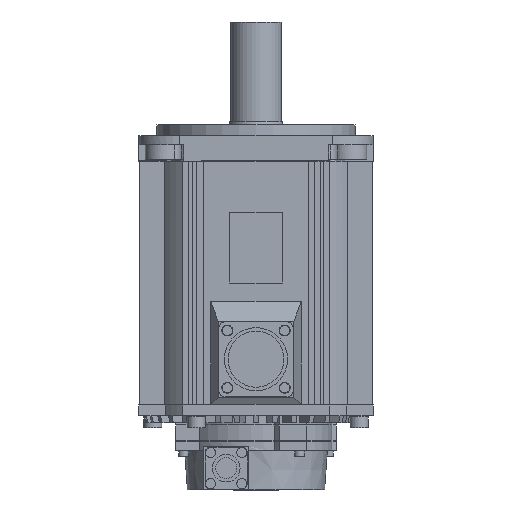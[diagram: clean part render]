
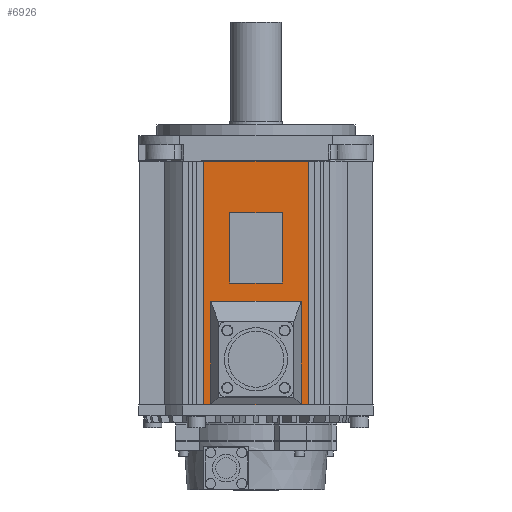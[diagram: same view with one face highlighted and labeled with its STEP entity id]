
A CAD part, front view. The second image highlights one B-rep face of the part: STEP entity #6926.
In plain terms, the highlighted planar face has unit normal (0, -1, 0).
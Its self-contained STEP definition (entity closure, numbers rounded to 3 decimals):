
#6894 = EDGE_CURVE ( 'NONE', #6895, #6896, #22342, .T. ) ;
#6895 = VERTEX_POINT ( 'NONE', #22338 ) ;
#6896 = VERTEX_POINT ( 'NONE', #22337 ) ;
#6897 = ORIENTED_EDGE ( 'NONE', *, *, #6898, .F. ) ;
#6898 = EDGE_CURVE ( 'NONE', #6899, #6895, #22336, .T. ) ;
#6899 = VERTEX_POINT ( 'NONE', #22395 ) ;
#6900 = ORIENTED_EDGE ( 'NONE', *, *, #6901, .F. ) ;
#6901 = EDGE_CURVE ( 'NONE', #6902, #6899, #22394, .T. ) ;
#6902 = VERTEX_POINT ( 'NONE', #22390 ) ;
#6903 = ORIENTED_EDGE ( 'NONE', *, *, #6904, .F. ) ;
#6904 = EDGE_CURVE ( 'NONE', #6896, #6902, #22389, .T. ) ;
#6907 = ORIENTED_EDGE ( 'NONE', *, *, #6908, .F. ) ;
#6908 = EDGE_CURVE ( 'NONE', #6931, #6937, #22378, .T. ) ;
#6909 = EDGE_LOOP ( 'NONE', ( #6910, #6915, #6919, #6922 ) ) ;
#6910 = ORIENTED_EDGE ( 'NONE', *, *, #6912, .F. ) ;
#6912 = EDGE_CURVE ( 'NONE', #6913, #6914, #22374, .T. ) ;
#6913 = VERTEX_POINT ( 'NONE', #22370 ) ;
#6914 = VERTEX_POINT ( 'NONE', #22369 ) ;
#6915 = ORIENTED_EDGE ( 'NONE', *, *, #6916, .T. ) ;
#6916 = EDGE_CURVE ( 'NONE', #6913, #6917, #22368, .T. ) ;
#6917 = VERTEX_POINT ( 'NONE', #22431 ) ;
#6919 = ORIENTED_EDGE ( 'NONE', *, *, #6920, .F. ) ;
#6920 = EDGE_CURVE ( 'NONE', #6921, #6917, #22428, .T. ) ;
#6921 = VERTEX_POINT ( 'NONE', #22420 ) ;
#6922 = ORIENTED_EDGE ( 'NONE', *, *, #6979, .F. ) ;
#6926 = ADVANCED_FACE ( 'NONE', ( #22413, #22412, #22411 ), #22410, .T. ) ;
#6927 = EDGE_LOOP ( 'NONE', ( #6928, #6932, #6935, #6907 ) ) ;
#6928 = ORIENTED_EDGE ( 'NONE', *, *, #6929, .F. ) ;
#6929 = EDGE_CURVE ( 'NONE', #6930, #6931, #22405, .T. ) ;
#6930 = VERTEX_POINT ( 'NONE', #22401 ) ;
#6931 = VERTEX_POINT ( 'NONE', #22400 ) ;
#6932 = ORIENTED_EDGE ( 'NONE', *, *, #6933, .F. ) ;
#6933 = EDGE_CURVE ( 'NONE', #6934, #6930, #22399, .T. ) ;
#6934 = VERTEX_POINT ( 'NONE', #22460 ) ;
#6935 = ORIENTED_EDGE ( 'NONE', *, *, #6936, .F. ) ;
#6936 = EDGE_CURVE ( 'NONE', #6937, #6934, #22459, .T. ) ;
#6937 = VERTEX_POINT ( 'NONE', #22455 ) ;
#6979 = EDGE_CURVE ( 'NONE', #6914, #6921, #22497, .T. ) ;
#6980 = EDGE_LOOP ( 'NONE', ( #6981, #6897, #6900, #6903 ) ) ;
#6981 = ORIENTED_EDGE ( 'NONE', *, *, #6894, .F. ) ;
#22334 = VECTOR ( 'NONE', #22396, 1000. ) ;
#22335 = CARTESIAN_POINT ( 'NONE',  ( -14.5, -64.5, -81.5 ) ) ;
#22336 = LINE ( 'NONE', #22335, #22334 ) ;
#22337 = CARTESIAN_POINT ( 'NONE',  ( 14.5, -64.5, -81.5 ) ) ;
#22338 = CARTESIAN_POINT ( 'NONE',  ( -14.5, -64.5, -81.5 ) ) ;
#22339 = DIRECTION ( 'NONE',  ( 1., 0., 0. ) ) ;
#22340 = VECTOR ( 'NONE', #22339, 1000. ) ;
#22341 = CARTESIAN_POINT ( 'NONE',  ( -14.5, -64.5, -81.5 ) ) ;
#22342 = LINE ( 'NONE', #22341, #22340 ) ;
#22365 = DIRECTION ( 'NONE',  ( 0., 0., 1. ) ) ;
#22366 = VECTOR ( 'NONE', #22365, 1000. ) ;
#22367 = CARTESIAN_POINT ( 'NONE',  ( 29., -64.5, -235.846 ) ) ;
#22368 = LINE ( 'NONE', #22367, #22366 ) ;
#22369 = CARTESIAN_POINT ( 'NONE',  ( -29., -64.5, -149. ) ) ;
#22370 = CARTESIAN_POINT ( 'NONE',  ( 29., -64.5, -149. ) ) ;
#22371 = DIRECTION ( 'NONE',  ( -1., 0., 0. ) ) ;
#22372 = VECTOR ( 'NONE', #22371, 1000. ) ;
#22373 = CARTESIAN_POINT ( 'NONE',  ( 29., -64.5, -149. ) ) ;
#22374 = LINE ( 'NONE', #22373, #22372 ) ;
#22375 = DIRECTION ( 'NONE',  ( 0., 0., -1. ) ) ;
#22376 = VECTOR ( 'NONE', #22375, 1000. ) ;
#22377 = CARTESIAN_POINT ( 'NONE',  ( -20.5, -64.5, -92.2 ) ) ;
#22378 = LINE ( 'NONE', #22377, #22376 ) ;
#22386 = DIRECTION ( 'NONE',  ( 0., 0., 1. ) ) ;
#22387 = VECTOR ( 'NONE', #22386, 1000. ) ;
#22388 = CARTESIAN_POINT ( 'NONE',  ( 14.5, -64.5, -81.5 ) ) ;
#22389 = LINE ( 'NONE', #22388, #22387 ) ;
#22390 = CARTESIAN_POINT ( 'NONE',  ( 14.5, -64.5, -42.5 ) ) ;
#22391 = DIRECTION ( 'NONE',  ( -1., 0., 0. ) ) ;
#22392 = VECTOR ( 'NONE', #22391, 1000. ) ;
#22393 = CARTESIAN_POINT ( 'NONE',  ( -14.5, -64.5, -42.5 ) ) ;
#22394 = LINE ( 'NONE', #22393, #22392 ) ;
#22395 = CARTESIAN_POINT ( 'NONE',  ( -14.5, -64.5, -42.5 ) ) ;
#22396 = DIRECTION ( 'NONE',  ( 0., 0., -1. ) ) ;
#22397 = VECTOR ( 'NONE', #22461, 1000. ) ;
#22398 = CARTESIAN_POINT ( 'NONE',  ( 20.5, -64.5, -92.2 ) ) ;
#22399 = LINE ( 'NONE', #22398, #22397 ) ;
#22400 = CARTESIAN_POINT ( 'NONE',  ( -20.5, -64.5, -92.2 ) ) ;
#22401 = CARTESIAN_POINT ( 'NONE',  ( 20.5, -64.5, -92.2 ) ) ;
#22402 = DIRECTION ( 'NONE',  ( -1., 0., 0. ) ) ;
#22403 = VECTOR ( 'NONE', #22402, 1000. ) ;
#22404 = CARTESIAN_POINT ( 'NONE',  ( 20.5, -64.5, -92.2 ) ) ;
#22405 = LINE ( 'NONE', #22404, #22403 ) ;
#22406 = DIRECTION ( 'NONE',  ( 1., 0., 0. ) ) ;
#22407 = DIRECTION ( 'NONE',  ( 0., -1., 0. ) ) ;
#22408 = CARTESIAN_POINT ( 'NONE',  ( 29., -64.5, -235.846 ) ) ;
#22409 = AXIS2_PLACEMENT_3D ( 'NONE', #22408, #22407, #22406 ) ;
#22410 = PLANE ( 'NONE',  #22409 ) ;
#22411 = FACE_BOUND ( 'NONE', #6980, .T. ) ;
#22412 = FACE_OUTER_BOUND ( 'NONE', #6909, .T. ) ;
#22413 = FACE_BOUND ( 'NONE', #6927, .T. ) ;
#22420 = CARTESIAN_POINT ( 'NONE',  ( -29., -64.5, -14. ) ) ;
#22421 = DIRECTION ( 'NONE',  ( 1., 0., 0. ) ) ;
#22422 = VECTOR ( 'NONE', #22421, 1000. ) ;
#22423 = CARTESIAN_POINT ( 'NONE',  ( 29., -64.5, -14. ) ) ;
#22428 = LINE ( 'NONE', #22423, #22422 ) ;
#22431 = CARTESIAN_POINT ( 'NONE',  ( 29., -64.5, -14. ) ) ;
#22455 = CARTESIAN_POINT ( 'NONE',  ( -20.5, -64.5, -148.2 ) ) ;
#22456 = DIRECTION ( 'NONE',  ( 1., 0., 0. ) ) ;
#22457 = VECTOR ( 'NONE', #22456, 1000. ) ;
#22458 = CARTESIAN_POINT ( 'NONE',  ( 20.5, -64.5, -148.2 ) ) ;
#22459 = LINE ( 'NONE', #22458, #22457 ) ;
#22460 = CARTESIAN_POINT ( 'NONE',  ( 20.5, -64.5, -148.2 ) ) ;
#22461 = DIRECTION ( 'NONE',  ( 0., 0., 1. ) ) ;
#22494 = DIRECTION ( 'NONE',  ( 0., 0., 1. ) ) ;
#22495 = VECTOR ( 'NONE', #22494, 1000. ) ;
#22496 = CARTESIAN_POINT ( 'NONE',  ( -29., -64.5, -235.846 ) ) ;
#22497 = LINE ( 'NONE', #22496, #22495 ) ;
